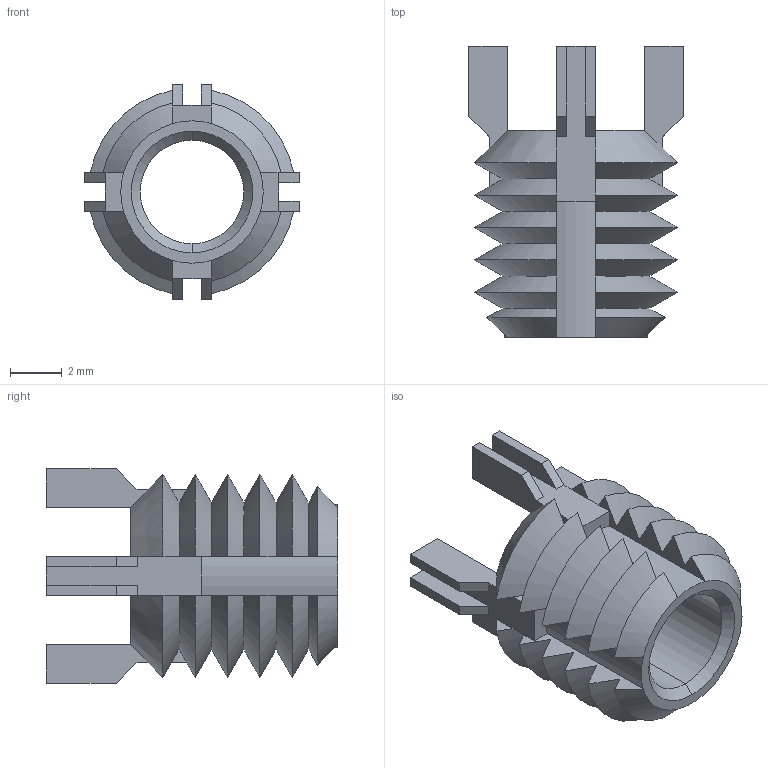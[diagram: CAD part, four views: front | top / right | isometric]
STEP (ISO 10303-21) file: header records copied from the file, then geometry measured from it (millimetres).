
FILE_DESCRIPTION (( 'STEP AP203' ), '1' );
FILE_NAME ('22002.W5630.step', '2020-01-04T21:33:24', ( '' ), ( '' ), 'SwSTEP 2.0', 'SolidWorks 2017', '' );
FILE_SCHEMA (( 'CONFIG_CONTROL_DESIGN' ));
Length unit declared in the file: millimetre
Products named in the file (1): 22002.W5630
Bounding box: 8.29 x 11.25 x 8.29 mm (x, y, z)
Volume: 192 mm3; surface area: 536.7 mm2
Topology: 1 solids, 1 shells, 132 faces, 346 edges, 216 vertices
Faces by surface type: plane 74, cone 52, cylinder 6
Entity records: 4187 total; most frequent: CARTESIAN_POINT 1055, ORIENTED_EDGE 692, DIRECTION 560, EDGE_CURVE 346, VERTEX_POINT 216, AXIS2_PLACEMENT_3D 201, LINE 158, VECTOR 158
